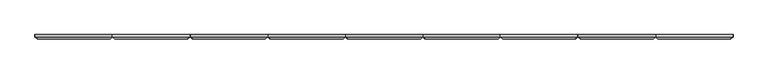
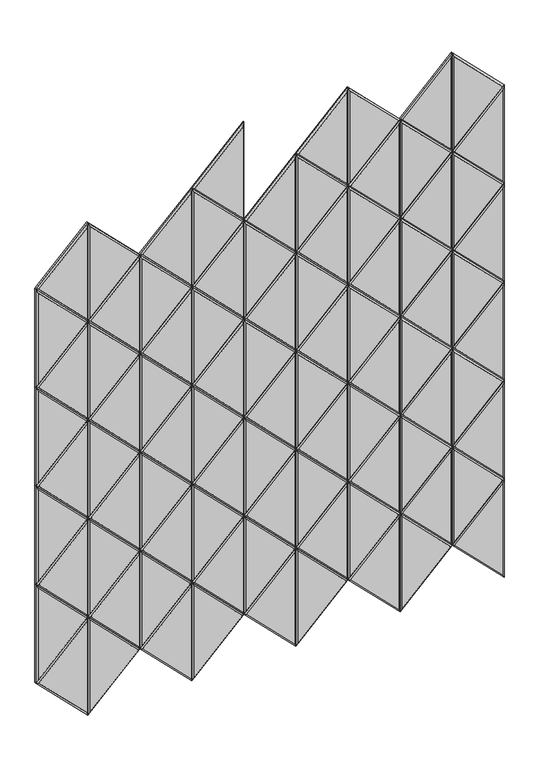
"""IFC4 building model written with IfcOpenShell, lengths in millimetres: proxy geometry, Wall_Akebia 6.3dm."""

from ifc_helpers import new_model, si_unit, origin, place, context, project, spatial, faceted_brep, source, transform, mapped, element, save


def generic_models_03445e5c(model_context):
    return source(origin(), model_context, "Body", "Brep", [
        faceted_brep([(8450.2881508, 12.0, 267.5677739), (8661.3241696, 12.0, 478.6037927), (8661.3241696, 12.0, 56.531755), (8450.2881508, 6.0, 267.5677739), (8661.3241696, 6.0, 478.6037927), (8661.3241696, 6.0, 56.531755), (8655.3241696, 0.0, 71.0170364), (8655.3241696, 0.0, 464.1185113), (8458.7734321, 0.0, 267.5677739)], [[[0, 1, 2]], [[3, 4, 1, 0]], [[4, 5, 2, 1]], [[5, 3, 0, 2]], [[6, 7, 8]], [[3, 8, 7, 4]], [[4, 7, 6, 5]], [[5, 6, 8, 3]]]),
        faceted_brep([(8028.2161131, 12.0, 267.5677739), (8239.2521319, 12.0, 478.6037927), (8239.2521319, 12.0, 56.531755), (8028.2161131, 6.0, 267.5677739), (8239.2521319, 6.0, 478.6037927), (8239.2521319, 6.0, 56.531755), (8233.2521319, 0.0, 71.0170364), (8233.2521319, 0.0, 464.1185113), (8036.7013944, 0.0, 267.5677739)], [[[0, 1, 2]], [[3, 4, 1, 0]], [[4, 5, 2, 1]], [[5, 3, 0, 2]], [[6, 7, 8]], [[3, 8, 7, 4]], [[4, 7, 6, 5]], [[5, 6, 8, 3]]]),
        faceted_brep([(8450.2881508, 12.0, 267.5677739), (8239.2521319, 12.0, 56.531755), (8239.2521319, 12.0, 478.6037927), (8450.2881508, 6.0, 267.5677739), (8239.2521319, 6.0, 478.6037927), (8239.2521319, 6.0, 56.531755), (8245.2521319, 0.0, 71.0170364), (8441.8028694, 0.0, 267.5677739), (8245.2521319, 0.0, 464.1185113)], [[[0, 1, 2]], [[3, 0, 2, 4]], [[4, 2, 1, 5]], [[5, 1, 0, 3]], [[6, 7, 8]], [[3, 4, 8, 7]], [[4, 5, 6, 8]], [[5, 3, 7, 6]]]),
        faceted_brep([(7606.1440754, 12.0, 267.5677739), (7817.1800942, 12.0, 478.6037927), (7817.1800942, 12.0, 56.531755), (7606.1440754, 6.0, 267.5677739), (7817.1800942, 6.0, 478.6037927), (7817.1800942, 6.0, 56.531755), (7811.1800942, 0.0, 71.0170364), (7811.1800942, 0.0, 464.1185113), (7614.6293568, 0.0, 267.5677739)], [[[0, 1, 2]], [[3, 4, 1, 0]], [[4, 5, 2, 1]], [[5, 3, 0, 2]], [[6, 7, 8]], [[3, 8, 7, 4]], [[4, 7, 6, 5]], [[5, 6, 8, 3]]]),
        faceted_brep([(8028.2161131, 12.0, 267.5677739), (7817.1800942, 12.0, 56.531755), (7817.1800942, 12.0, 478.6037927), (8028.2161131, 6.0, 267.5677739), (7817.1800942, 6.0, 478.6037927), (7817.1800942, 6.0, 56.531755), (7823.1800942, 0.0, 71.0170364), (8019.7308317, 0.0, 267.5677739), (7823.1800942, 0.0, 464.1185113)], [[[0, 1, 2]], [[3, 0, 2, 4]], [[4, 2, 1, 5]], [[5, 1, 0, 3]], [[6, 7, 8]], [[3, 4, 8, 7]], [[4, 5, 6, 8]], [[5, 3, 7, 6]]]),
        faceted_brep([(7184.0720377, 12.0, 267.5677739), (7395.1080565, 12.0, 478.6037927), (7395.1080565, 12.0, 56.531755), (7184.0720377, 6.0, 267.5677739), (7395.1080565, 6.0, 478.6037927), (7395.1080565, 6.0, 56.531755), (7389.1080565, 0.0, 71.0170364), (7389.1080565, 0.0, 464.1185113), (7192.5573191, 0.0, 267.5677739)], [[[0, 1, 2]], [[3, 4, 1, 0]], [[4, 5, 2, 1]], [[5, 3, 0, 2]], [[6, 7, 8]], [[3, 8, 7, 4]], [[4, 7, 6, 5]], [[5, 6, 8, 3]]]),
        faceted_brep([(7606.1440754, 12.0, 267.5677739), (7395.1080565, 12.0, 56.531755), (7395.1080565, 12.0, 478.6037927), (7606.1440754, 6.0, 267.5677739), (7395.1080565, 6.0, 478.6037927), (7395.1080565, 6.0, 56.531755), (7401.1080565, 0.0, 71.0170364), (7597.658794, 0.0, 267.5677739), (7401.1080565, 0.0, 464.1185113)], [[[0, 1, 2]], [[3, 0, 2, 4]], [[4, 2, 1, 5]], [[5, 1, 0, 3]], [[6, 7, 8]], [[3, 4, 8, 7]], [[4, 5, 6, 8]], [[5, 3, 7, 6]]]),
        faceted_brep([(6762.0, 12.0, 267.5677739), (6973.0360188, 12.0, 478.6037927), (6973.0360188, 12.0, 56.531755), (6762.0, 6.0, 267.5677739), (6973.0360188, 6.0, 478.6037927), (6973.0360188, 6.0, 56.531755), (6967.0360188, 0.0, 71.0170364), (6967.0360188, 0.0, 464.1185113), (6770.4852814, 0.0, 267.5677739)], [[[0, 1, 2]], [[3, 4, 1, 0]], [[4, 5, 2, 1]], [[5, 3, 0, 2]], [[6, 7, 8]], [[3, 8, 7, 4]], [[4, 7, 6, 5]], [[5, 6, 8, 3]]]),
        faceted_brep([(7184.0720377, 12.0, 267.5677739), (6973.0360188, 12.0, 56.531755), (6973.0360188, 12.0, 478.6037927), (7184.0720377, 6.0, 267.5677739), (6973.0360188, 6.0, 478.6037927), (6973.0360188, 6.0, 56.531755), (6979.0360188, 0.0, 71.0170364), (7175.5867563, 0.0, 267.5677739), (6979.0360188, 0.0, 464.1185113)], [[[0, 1, 2]], [[3, 0, 2, 4]], [[4, 2, 1, 5]], [[5, 1, 0, 3]], [[6, 7, 8]], [[3, 4, 8, 7]], [[4, 5, 6, 8]], [[5, 3, 7, 6]]]),
        faceted_brep([(8239.2521319, 12.0, 478.6037927), (8450.2881508, 12.0, 689.6398115), (8450.2881508, 12.0, 267.5677739), (8239.2521319, 6.0, 478.6037927), (8450.2881508, 6.0, 689.6398115), (8450.2881508, 6.0, 267.5677739), (8444.2881508, 0.0, 282.0530552), (8444.2881508, 0.0, 675.1545302), (8247.7374133, 0.0, 478.6037927)], [[[0, 1, 2]], [[3, 4, 1, 0]], [[4, 5, 2, 1]], [[5, 3, 0, 2]], [[6, 7, 8]], [[3, 8, 7, 4]], [[4, 7, 6, 5]], [[5, 6, 8, 3]]]),
        faceted_brep([(8661.3241696, 12.0, 478.6037927), (8450.2881508, 12.0, 267.5677739), (8450.2881508, 12.0, 689.6398115), (8661.3241696, 6.0, 478.6037927), (8450.2881508, 6.0, 689.6398115), (8450.2881508, 6.0, 267.5677739), (8456.2881508, 0.0, 282.0530552), (8652.8388882, 0.0, 478.6037927), (8456.2881508, 0.0, 675.1545302)], [[[0, 1, 2]], [[3, 0, 2, 4]], [[4, 2, 1, 5]], [[5, 1, 0, 3]], [[6, 7, 8]], [[3, 4, 8, 7]], [[4, 5, 6, 8]], [[5, 3, 7, 6]]]),
        faceted_brep([(7817.1800942, 12.0, 478.6037927), (8028.2161131, 12.0, 689.6398115), (8028.2161131, 12.0, 267.5677739), (7817.1800942, 6.0, 478.6037927), (8028.2161131, 6.0, 689.6398115), (8028.2161131, 6.0, 267.5677739), (8022.2161131, 0.0, 282.0530552), (8022.2161131, 0.0, 675.1545302), (7825.6653756, 0.0, 478.6037927)], [[[0, 1, 2]], [[3, 4, 1, 0]], [[4, 5, 2, 1]], [[5, 3, 0, 2]], [[6, 7, 8]], [[3, 8, 7, 4]], [[4, 7, 6, 5]], [[5, 6, 8, 3]]]),
        faceted_brep([(8239.2521319, 12.0, 478.6037927), (8028.2161131, 12.0, 267.5677739), (8028.2161131, 12.0, 689.6398115), (8239.2521319, 6.0, 478.6037927), (8028.2161131, 6.0, 689.6398115), (8028.2161131, 6.0, 267.5677739), (8034.2161131, 0.0, 282.0530552), (8230.7668505, 0.0, 478.6037927), (8034.2161131, 0.0, 675.1545302)], [[[0, 1, 2]], [[3, 0, 2, 4]], [[4, 2, 1, 5]], [[5, 1, 0, 3]], [[6, 7, 8]], [[3, 4, 8, 7]], [[4, 5, 6, 8]], [[5, 3, 7, 6]]]),
        faceted_brep([(7395.1080565, 12.0, 478.6037927), (7606.1440754, 12.0, 689.6398115), (7606.1440754, 12.0, 267.5677739), (7395.1080565, 6.0, 478.6037927), (7606.1440754, 6.0, 689.6398115), (7606.1440754, 6.0, 267.5677739), (7600.1440754, 0.0, 282.0530552), (7600.1440754, 0.0, 675.1545302), (7403.5933379, 0.0, 478.6037927)], [[[0, 1, 2]], [[3, 4, 1, 0]], [[4, 5, 2, 1]], [[5, 3, 0, 2]], [[6, 7, 8]], [[3, 8, 7, 4]], [[4, 7, 6, 5]], [[5, 6, 8, 3]]]),
        faceted_brep([(7817.1800942, 12.0, 478.6037927), (7606.1440754, 12.0, 267.5677739), (7606.1440754, 12.0, 689.6398115), (7817.1800942, 6.0, 478.6037927), (7606.1440754, 6.0, 689.6398115), (7606.1440754, 6.0, 267.5677739), (7612.1440754, 0.0, 282.0530552), (7808.6948129, 0.0, 478.6037927), (7612.1440754, 0.0, 675.1545302)], [[[0, 1, 2]], [[3, 0, 2, 4]], [[4, 2, 1, 5]], [[5, 1, 0, 3]], [[6, 7, 8]], [[3, 4, 8, 7]], [[4, 5, 6, 8]], [[5, 3, 7, 6]]]),
        faceted_brep([(6973.0360188, 12.0, 478.6037927), (7184.0720377, 12.0, 689.6398115), (7184.0720377, 12.0, 267.5677739), (6973.0360188, 6.0, 478.6037927), (7184.0720377, 6.0, 689.6398115), (7184.0720377, 6.0, 267.5677739), (7178.0720377, 0.0, 282.0530552), (7178.0720377, 0.0, 675.1545302), (6981.5213002, 0.0, 478.6037927)], [[[0, 1, 2]], [[3, 4, 1, 0]], [[4, 5, 2, 1]], [[5, 3, 0, 2]], [[6, 7, 8]], [[3, 8, 7, 4]], [[4, 7, 6, 5]], [[5, 6, 8, 3]]]),
        faceted_brep([(7395.1080565, 12.0, 478.6037927), (7184.0720377, 12.0, 267.5677739), (7184.0720377, 12.0, 689.6398115), (7395.1080565, 6.0, 478.6037927), (7184.0720377, 6.0, 689.6398115), (7184.0720377, 6.0, 267.5677739), (7190.0720377, 0.0, 282.0530552), (7386.6227752, 0.0, 478.6037927), (7190.0720377, 0.0, 675.1545302)], [[[0, 1, 2]], [[3, 0, 2, 4]], [[4, 2, 1, 5]], [[5, 1, 0, 3]], [[6, 7, 8]], [[3, 4, 8, 7]], [[4, 5, 6, 8]], [[5, 3, 7, 6]]]),
        faceted_brep([(6973.0360188, 12.0, 478.6037927), (6762.0, 12.0, 267.5677739), (6762.0, 12.0, 689.6398115), (6973.0360188, 6.0, 478.6037927), (6762.0, 6.0, 689.6398115), (6762.0, 6.0, 267.5677739), (6768.0, 0.0, 282.0530552), (6964.5507375, 0.0, 478.6037927), (6768.0, 0.0, 675.1545302)], [[[0, 1, 2]], [[3, 0, 2, 4]], [[4, 2, 1, 5]], [[5, 1, 0, 3]], [[6, 7, 8]], [[3, 4, 8, 7]], [[4, 5, 6, 8]], [[5, 3, 7, 6]]]),
        faceted_brep([(8450.2881508, 12.0, 689.6398115), (8661.3241696, 12.0, 900.6758304), (8661.3241696, 12.0, 478.6037927), (8450.2881508, 6.0, 689.6398115), (8661.3241696, 6.0, 900.6758304), (8661.3241696, 6.0, 478.6037927), (8655.3241696, 0.0, 493.0890741), (8655.3241696, 0.0, 886.190549), (8458.7734321, 0.0, 689.6398115)], [[[0, 1, 2]], [[3, 4, 1, 0]], [[4, 5, 2, 1]], [[5, 3, 0, 2]], [[6, 7, 8]], [[3, 8, 7, 4]], [[4, 7, 6, 5]], [[5, 6, 8, 3]]]),
        faceted_brep([(8028.2161131, 12.0, 689.6398115), (8239.2521319, 12.0, 900.6758304), (8239.2521319, 12.0, 478.6037927), (8028.2161131, 6.0, 689.6398115), (8239.2521319, 6.0, 900.6758304), (8239.2521319, 6.0, 478.6037927), (8233.2521319, 0.0, 493.0890741), (8233.2521319, 0.0, 886.190549), (8036.7013944, 0.0, 689.6398115)], [[[0, 1, 2]], [[3, 4, 1, 0]], [[4, 5, 2, 1]], [[5, 3, 0, 2]], [[6, 7, 8]], [[3, 8, 7, 4]], [[4, 7, 6, 5]], [[5, 6, 8, 3]]]),
        faceted_brep([(8450.2881508, 12.0, 689.6398115), (8239.2521319, 12.0, 478.6037927), (8239.2521319, 12.0, 900.6758304), (8450.2881508, 6.0, 689.6398115), (8239.2521319, 6.0, 900.6758304), (8239.2521319, 6.0, 478.6037927), (8245.2521319, 0.0, 493.0890741), (8441.8028694, 0.0, 689.6398115), (8245.2521319, 0.0, 886.190549)], [[[0, 1, 2]], [[3, 0, 2, 4]], [[4, 2, 1, 5]], [[5, 1, 0, 3]], [[6, 7, 8]], [[3, 4, 8, 7]], [[4, 5, 6, 8]], [[5, 3, 7, 6]]]),
        faceted_brep([(7606.1440754, 12.0, 689.6398115), (7817.1800942, 12.0, 900.6758304), (7817.1800942, 12.0, 478.6037927), (7606.1440754, 6.0, 689.6398115), (7817.1800942, 6.0, 900.6758304), (7817.1800942, 6.0, 478.6037927), (7811.1800942, 0.0, 493.0890741), (7811.1800942, 0.0, 886.190549), (7614.6293568, 0.0, 689.6398115)], [[[0, 1, 2]], [[3, 4, 1, 0]], [[4, 5, 2, 1]], [[5, 3, 0, 2]], [[6, 7, 8]], [[3, 8, 7, 4]], [[4, 7, 6, 5]], [[5, 6, 8, 3]]]),
        faceted_brep([(8028.2161131, 12.0, 689.6398115), (7817.1800942, 12.0, 478.6037927), (7817.1800942, 12.0, 900.6758304), (8028.2161131, 6.0, 689.6398115), (7817.1800942, 6.0, 900.6758304), (7817.1800942, 6.0, 478.6037927), (7823.1800942, 0.0, 493.0890741), (8019.7308317, 0.0, 689.6398115), (7823.1800942, 0.0, 886.190549)], [[[0, 1, 2]], [[3, 0, 2, 4]], [[4, 2, 1, 5]], [[5, 1, 0, 3]], [[6, 7, 8]], [[3, 4, 8, 7]], [[4, 5, 6, 8]], [[5, 3, 7, 6]]]),
        faceted_brep([(7184.0720377, 12.0, 689.6398115), (7395.1080565, 12.0, 900.6758304), (7395.1080565, 12.0, 478.6037927), (7184.0720377, 6.0, 689.6398115), (7395.1080565, 6.0, 900.6758304), (7395.1080565, 6.0, 478.6037927), (7389.1080565, 0.0, 493.0890741), (7389.1080565, 0.0, 886.190549), (7192.5573191, 0.0, 689.6398115)], [[[0, 1, 2]], [[3, 4, 1, 0]], [[4, 5, 2, 1]], [[5, 3, 0, 2]], [[6, 7, 8]], [[3, 8, 7, 4]], [[4, 7, 6, 5]], [[5, 6, 8, 3]]]),
        faceted_brep([(7606.1440754, 12.0, 689.6398115), (7395.1080565, 12.0, 478.6037927), (7395.1080565, 12.0, 900.6758304), (7606.1440754, 6.0, 689.6398115), (7395.1080565, 6.0, 900.6758304), (7395.1080565, 6.0, 478.6037927), (7401.1080565, 0.0, 493.0890741), (7597.658794, 0.0, 689.6398115), (7401.1080565, 0.0, 886.190549)], [[[0, 1, 2]], [[3, 0, 2, 4]], [[4, 2, 1, 5]], [[5, 1, 0, 3]], [[6, 7, 8]], [[3, 4, 8, 7]], [[4, 5, 6, 8]], [[5, 3, 7, 6]]]),
        faceted_brep([(6762.0, 12.0, 689.6398115), (6973.0360188, 12.0, 900.6758304), (6973.0360188, 12.0, 478.6037927), (6762.0, 6.0, 689.6398115), (6973.0360188, 6.0, 900.6758304), (6973.0360188, 6.0, 478.6037927), (6967.0360188, 0.0, 493.0890741), (6967.0360188, 0.0, 886.190549), (6770.4852814, 0.0, 689.6398115)], [[[0, 1, 2]], [[3, 4, 1, 0]], [[4, 5, 2, 1]], [[5, 3, 0, 2]], [[6, 7, 8]], [[3, 8, 7, 4]], [[4, 7, 6, 5]], [[5, 6, 8, 3]]]),
        faceted_brep([(7184.0720377, 12.0, 689.6398115), (6973.0360188, 12.0, 478.6037927), (6973.0360188, 12.0, 900.6758304), (7184.0720377, 6.0, 689.6398115), (6973.0360188, 6.0, 900.6758304), (6973.0360188, 6.0, 478.6037927), (6979.0360188, 0.0, 493.0890741), (7175.5867563, 0.0, 689.6398115), (6979.0360188, 0.0, 886.190549)], [[[0, 1, 2]], [[3, 0, 2, 4]], [[4, 2, 1, 5]], [[5, 1, 0, 3]], [[6, 7, 8]], [[3, 4, 8, 7]], [[4, 5, 6, 8]], [[5, 3, 7, 6]]]),
        faceted_brep([(8239.2521319, 12.0, 900.6758304), (8450.2881508, 12.0, 1111.7118492), (8450.2881508, 12.0, 689.6398115), (8239.2521319, 6.0, 900.6758304), (8450.2881508, 6.0, 1111.7118492), (8450.2881508, 6.0, 689.6398115), (8444.2881508, 0.0, 704.1250929), (8444.2881508, 0.0, 1097.2265679), (8247.7374133, 0.0, 900.6758304)], [[[0, 1, 2]], [[3, 4, 1, 0]], [[4, 5, 2, 1]], [[5, 3, 0, 2]], [[6, 7, 8]], [[3, 8, 7, 4]], [[4, 7, 6, 5]], [[5, 6, 8, 3]]]),
        faceted_brep([(8661.3241696, 12.0, 900.6758304), (8450.2881508, 12.0, 689.6398115), (8450.2881508, 12.0, 1111.7118492), (8661.3241696, 6.0, 900.6758304), (8450.2881508, 6.0, 1111.7118492), (8450.2881508, 6.0, 689.6398115), (8456.2881508, 0.0, 704.1250929), (8652.8388882, 0.0, 900.6758304), (8456.2881508, 0.0, 1097.2265679)], [[[0, 1, 2]], [[3, 0, 2, 4]], [[4, 2, 1, 5]], [[5, 1, 0, 3]], [[6, 7, 8]], [[3, 4, 8, 7]], [[4, 5, 6, 8]], [[5, 3, 7, 6]]]),
        faceted_brep([(7817.1800942, 12.0, 900.6758304), (8028.2161131, 12.0, 1111.7118492), (8028.2161131, 12.0, 689.6398115), (7817.1800942, 6.0, 900.6758304), (8028.2161131, 6.0, 1111.7118492), (8028.2161131, 6.0, 689.6398115), (8022.2161131, 0.0, 704.1250929), (8022.2161131, 0.0, 1097.2265679), (7825.6653756, 0.0, 900.6758304)], [[[0, 1, 2]], [[3, 4, 1, 0]], [[4, 5, 2, 1]], [[5, 3, 0, 2]], [[6, 7, 8]], [[3, 8, 7, 4]], [[4, 7, 6, 5]], [[5, 6, 8, 3]]]),
        faceted_brep([(8239.2521319, 12.0, 900.6758304), (8028.2161131, 12.0, 689.6398115), (8028.2161131, 12.0, 1111.7118492), (8239.2521319, 6.0, 900.6758304), (8028.2161131, 6.0, 1111.7118492), (8028.2161131, 6.0, 689.6398115), (8034.2161131, 0.0, 704.1250929), (8230.7668505, 0.0, 900.6758304), (8034.2161131, 0.0, 1097.2265679)], [[[0, 1, 2]], [[3, 0, 2, 4]], [[4, 2, 1, 5]], [[5, 1, 0, 3]], [[6, 7, 8]], [[3, 4, 8, 7]], [[4, 5, 6, 8]], [[5, 3, 7, 6]]]),
        faceted_brep([(7395.1080565, 12.0, 900.6758304), (7606.1440754, 12.0, 1111.7118492), (7606.1440754, 12.0, 689.6398115), (7395.1080565, 6.0, 900.6758304), (7606.1440754, 6.0, 1111.7118492), (7606.1440754, 6.0, 689.6398115), (7600.1440754, 0.0, 704.1250929), (7600.1440754, 0.0, 1097.2265679), (7403.5933379, 0.0, 900.6758304)], [[[0, 1, 2]], [[3, 4, 1, 0]], [[4, 5, 2, 1]], [[5, 3, 0, 2]], [[6, 7, 8]], [[3, 8, 7, 4]], [[4, 7, 6, 5]], [[5, 6, 8, 3]]]),
        faceted_brep([(7817.1800942, 12.0, 900.6758304), (7606.1440754, 12.0, 689.6398115), (7606.1440754, 12.0, 1111.7118492), (7817.1800942, 6.0, 900.6758304), (7606.1440754, 6.0, 1111.7118492), (7606.1440754, 6.0, 689.6398115), (7612.1440754, 0.0, 704.1250929), (7808.6948129, 0.0, 900.6758304), (7612.1440754, 0.0, 1097.2265679)], [[[0, 1, 2]], [[3, 0, 2, 4]], [[4, 2, 1, 5]], [[5, 1, 0, 3]], [[6, 7, 8]], [[3, 4, 8, 7]], [[4, 5, 6, 8]], [[5, 3, 7, 6]]]),
        faceted_brep([(6973.0360188, 12.0, 900.6758304), (7184.0720377, 12.0, 1111.7118492), (7184.0720377, 12.0, 689.6398115), (6973.0360188, 6.0, 900.6758304), (7184.0720377, 6.0, 1111.7118492), (7184.0720377, 6.0, 689.6398115), (7178.0720377, 0.0, 704.1250929), (7178.0720377, 0.0, 1097.2265679), (6981.5213002, 0.0, 900.6758304)], [[[0, 1, 2]], [[3, 4, 1, 0]], [[4, 5, 2, 1]], [[5, 3, 0, 2]], [[6, 7, 8]], [[3, 8, 7, 4]], [[4, 7, 6, 5]], [[5, 6, 8, 3]]]),
        faceted_brep([(7395.1080565, 12.0, 900.6758304), (7184.0720377, 12.0, 689.6398115), (7184.0720377, 12.0, 1111.7118492), (7395.1080565, 6.0, 900.6758304), (7184.0720377, 6.0, 1111.7118492), (7184.0720377, 6.0, 689.6398115), (7190.0720377, 0.0, 704.1250929), (7386.6227752, 0.0, 900.6758304), (7190.0720377, 0.0, 1097.2265679)], [[[0, 1, 2]], [[3, 0, 2, 4]], [[4, 2, 1, 5]], [[5, 1, 0, 3]], [[6, 7, 8]], [[3, 4, 8, 7]], [[4, 5, 6, 8]], [[5, 3, 7, 6]]]),
        faceted_brep([(6973.0360188, 12.0, 900.6758304), (6762.0, 12.0, 689.6398115), (6762.0, 12.0, 1111.7118492), (6973.0360188, 6.0, 900.6758304), (6762.0, 6.0, 1111.7118492), (6762.0, 6.0, 689.6398115), (6768.0, 0.0, 704.1250929), (6964.5507375, 0.0, 900.6758304), (6768.0, 0.0, 1097.2265679)], [[[0, 1, 2]], [[3, 0, 2, 4]], [[4, 2, 1, 5]], [[5, 1, 0, 3]], [[6, 7, 8]], [[3, 4, 8, 7]], [[4, 5, 6, 8]], [[5, 3, 7, 6]]]),
        faceted_brep([(8450.2881508, 12.0, 1111.7118492), (8661.3241696, 12.0, 1322.7478681), (8661.3241696, 12.0, 900.6758304), (8450.2881508, 6.0, 1111.7118492), (8661.3241696, 6.0, 1322.7478681), (8661.3241696, 6.0, 900.6758304), (8655.3241696, 0.0, 915.1611118), (8655.3241696, 0.0, 1308.2625867), (8458.7734321, 0.0, 1111.7118492)], [[[0, 1, 2]], [[3, 4, 1, 0]], [[4, 5, 2, 1]], [[5, 3, 0, 2]], [[6, 7, 8]], [[3, 8, 7, 4]], [[4, 7, 6, 5]], [[5, 6, 8, 3]]]),
        faceted_brep([(8028.2161131, 12.0, 1111.7118492), (8239.2521319, 12.0, 1322.7478681), (8239.2521319, 12.0, 900.6758304), (8028.2161131, 6.0, 1111.7118492), (8239.2521319, 6.0, 1322.7478681), (8239.2521319, 6.0, 900.6758304), (8233.2521319, 0.0, 915.1611118), (8233.2521319, 0.0, 1308.2625867), (8036.7013944, 0.0, 1111.7118492)], [[[0, 1, 2]], [[3, 4, 1, 0]], [[4, 5, 2, 1]], [[5, 3, 0, 2]], [[6, 7, 8]], [[3, 8, 7, 4]], [[4, 7, 6, 5]], [[5, 6, 8, 3]]]),
        faceted_brep([(8450.2881508, 12.0, 1111.7118492), (8239.2521319, 12.0, 900.6758304), (8239.2521319, 12.0, 1322.7478681), (8450.2881508, 6.0, 1111.7118492), (8239.2521319, 6.0, 1322.7478681), (8239.2521319, 6.0, 900.6758304), (8245.2521319, 0.0, 915.1611118), (8441.8028694, 0.0, 1111.7118492), (8245.2521319, 0.0, 1308.2625867)], [[[0, 1, 2]], [[3, 0, 2, 4]], [[4, 2, 1, 5]], [[5, 1, 0, 3]], [[6, 7, 8]], [[3, 4, 8, 7]], [[4, 5, 6, 8]], [[5, 3, 7, 6]]]),
        faceted_brep([(7606.1440754, 12.0, 1111.7118492), (7817.1800942, 12.0, 1322.7478681), (7817.1800942, 12.0, 900.6758304), (7606.1440754, 6.0, 1111.7118492), (7817.1800942, 6.0, 1322.7478681), (7817.1800942, 6.0, 900.6758304), (7811.1800942, 0.0, 915.1611118), (7811.1800942, 0.0, 1308.2625867), (7614.6293568, 0.0, 1111.7118492)], [[[0, 1, 2]], [[3, 4, 1, 0]], [[4, 5, 2, 1]], [[5, 3, 0, 2]], [[6, 7, 8]], [[3, 8, 7, 4]], [[4, 7, 6, 5]], [[5, 6, 8, 3]]]),
        faceted_brep([(8028.2161131, 12.0, 1111.7118492), (7817.1800942, 12.0, 900.6758304), (7817.1800942, 12.0, 1322.7478681), (8028.2161131, 6.0, 1111.7118492), (7817.1800942, 6.0, 1322.7478681), (7817.1800942, 6.0, 900.6758304), (7823.1800942, 0.0, 915.1611118), (8019.7308317, 0.0, 1111.7118492), (7823.1800942, 0.0, 1308.2625867)], [[[0, 1, 2]], [[3, 0, 2, 4]], [[4, 2, 1, 5]], [[5, 1, 0, 3]], [[6, 7, 8]], [[3, 4, 8, 7]], [[4, 5, 6, 8]], [[5, 3, 7, 6]]]),
        faceted_brep([(7184.0720377, 12.0, 1111.7118492), (7395.1080565, 12.0, 1322.7478681), (7395.1080565, 12.0, 900.6758304), (7184.0720377, 6.0, 1111.7118492), (7395.1080565, 6.0, 1322.7478681), (7395.1080565, 6.0, 900.6758304), (7389.1080565, 0.0, 915.1611118), (7389.1080565, 0.0, 1308.2625867), (7192.5573191, 0.0, 1111.7118492)], [[[0, 1, 2]], [[3, 4, 1, 0]], [[4, 5, 2, 1]], [[5, 3, 0, 2]], [[6, 7, 8]], [[3, 8, 7, 4]], [[4, 7, 6, 5]], [[5, 6, 8, 3]]]),
        faceted_brep([(7606.1440754, 12.0, 1111.7118492), (7395.1080565, 12.0, 900.6758304), (7395.1080565, 12.0, 1322.7478681), (7606.1440754, 6.0, 1111.7118492), (7395.1080565, 6.0, 1322.7478681), (7395.1080565, 6.0, 900.6758304), (7401.1080565, 0.0, 915.1611118), (7597.658794, 0.0, 1111.7118492), (7401.1080565, 0.0, 1308.2625867)], [[[0, 1, 2]], [[3, 0, 2, 4]], [[4, 2, 1, 5]], [[5, 1, 0, 3]], [[6, 7, 8]], [[3, 4, 8, 7]], [[4, 5, 6, 8]], [[5, 3, 7, 6]]]),
        faceted_brep([(6762.0, 12.0, 1111.7118492), (6973.0360188, 12.0, 1322.7478681), (6973.0360188, 12.0, 900.6758304), (6762.0, 6.0, 1111.7118492), (6973.0360188, 6.0, 1322.7478681), (6973.0360188, 6.0, 900.6758304), (6967.0360188, 0.0, 915.1611118), (6967.0360188, 0.0, 1308.2625867), (6770.4852814, 0.0, 1111.7118492)], [[[0, 1, 2]], [[3, 4, 1, 0]], [[4, 5, 2, 1]], [[5, 3, 0, 2]], [[6, 7, 8]], [[3, 8, 7, 4]], [[4, 7, 6, 5]], [[5, 6, 8, 3]]]),
        faceted_brep([(7184.0720377, 12.0, 1111.7118492), (6973.0360188, 12.0, 900.6758304), (6973.0360188, 12.0, 1322.7478681), (7184.0720377, 6.0, 1111.7118492), (6973.0360188, 6.0, 1322.7478681), (6973.0360188, 6.0, 900.6758304), (6979.0360188, 0.0, 915.1611118), (7175.5867563, 0.0, 1111.7118492), (6979.0360188, 0.0, 1308.2625867)], [[[0, 1, 2]], [[3, 0, 2, 4]], [[4, 2, 1, 5]], [[5, 1, 0, 3]], [[6, 7, 8]], [[3, 4, 8, 7]], [[4, 5, 6, 8]], [[5, 3, 7, 6]]]),
        faceted_brep([(8239.2521319, 12.0, 1322.7478681), (8450.2881508, 12.0, 1533.7838869), (8450.2881508, 12.0, 1111.7118492), (8239.2521319, 6.0, 1322.7478681), (8450.2881508, 6.0, 1533.7838869), (8450.2881508, 6.0, 1111.7118492), (8444.2881508, 0.0, 1126.1971306), (8444.2881508, 0.0, 1519.2986056), (8247.7374133, 0.0, 1322.7478681)], [[[0, 1, 2]], [[3, 4, 1, 0]], [[4, 5, 2, 1]], [[5, 3, 0, 2]], [[6, 7, 8]], [[3, 8, 7, 4]], [[4, 7, 6, 5]], [[5, 6, 8, 3]]]),
        faceted_brep([(8661.3241696, 12.0, 1322.7478681), (8450.2881508, 12.0, 1111.7118492), (8450.2881508, 12.0, 1533.7838869), (8661.3241696, 6.0, 1322.7478681), (8450.2881508, 6.0, 1533.7838869), (8450.2881508, 6.0, 1111.7118492), (8456.2881508, 0.0, 1126.1971306), (8652.8388882, 0.0, 1322.7478681), (8456.2881508, 0.0, 1519.2986056)], [[[0, 1, 2]], [[3, 0, 2, 4]], [[4, 2, 1, 5]], [[5, 1, 0, 3]], [[6, 7, 8]], [[3, 4, 8, 7]], [[4, 5, 6, 8]], [[5, 3, 7, 6]]]),
        faceted_brep([(7817.1800942, 12.0, 1322.7478681), (8028.2161131, 12.0, 1533.7838869), (8028.2161131, 12.0, 1111.7118492), (7817.1800942, 6.0, 1322.7478681), (8028.2161131, 6.0, 1533.7838869), (8028.2161131, 6.0, 1111.7118492), (8022.2161131, 0.0, 1126.1971306), (8022.2161131, 0.0, 1519.2986056), (7825.6653756, 0.0, 1322.7478681)], [[[0, 1, 2]], [[3, 4, 1, 0]], [[4, 5, 2, 1]], [[5, 3, 0, 2]], [[6, 7, 8]], [[3, 8, 7, 4]], [[4, 7, 6, 5]], [[5, 6, 8, 3]]]),
        faceted_brep([(8239.2521319, 12.0, 1322.7478681), (8028.2161131, 12.0, 1111.7118492), (8028.2161131, 12.0, 1533.7838869), (8239.2521319, 6.0, 1322.7478681), (8028.2161131, 6.0, 1533.7838869), (8028.2161131, 6.0, 1111.7118492), (8034.2161131, 0.0, 1126.1971306), (8230.7668505, 0.0, 1322.7478681), (8034.2161131, 0.0, 1519.2986056)], [[[0, 1, 2]], [[3, 0, 2, 4]], [[4, 2, 1, 5]], [[5, 1, 0, 3]], [[6, 7, 8]], [[3, 4, 8, 7]], [[4, 5, 6, 8]], [[5, 3, 7, 6]]]),
        faceted_brep([(7395.1080565, 12.0, 1322.7478681), (7606.1440754, 12.0, 1533.7838869), (7606.1440754, 12.0, 1111.7118492), (7395.1080565, 6.0, 1322.7478681), (7606.1440754, 6.0, 1533.7838869), (7606.1440754, 6.0, 1111.7118492), (7600.1440754, 0.0, 1126.1971306), (7600.1440754, 0.0, 1519.2986056), (7403.5933379, 0.0, 1322.7478681)], [[[0, 1, 2]], [[3, 4, 1, 0]], [[4, 5, 2, 1]], [[5, 3, 0, 2]], [[6, 7, 8]], [[3, 8, 7, 4]], [[4, 7, 6, 5]], [[5, 6, 8, 3]]]),
        faceted_brep([(7817.1800942, 12.0, 1322.7478681), (7606.1440754, 12.0, 1111.7118492), (7606.1440754, 12.0, 1533.7838869), (7817.1800942, 6.0, 1322.7478681), (7606.1440754, 6.0, 1533.7838869), (7606.1440754, 6.0, 1111.7118492), (7612.1440754, 0.0, 1126.1971306), (7808.6948129, 0.0, 1322.7478681), (7612.1440754, 0.0, 1519.2986056)], [[[0, 1, 2]], [[3, 0, 2, 4]], [[4, 2, 1, 5]], [[5, 1, 0, 3]], [[6, 7, 8]], [[3, 4, 8, 7]], [[4, 5, 6, 8]], [[5, 3, 7, 6]]]),
        faceted_brep([(6973.0360188, 12.0, 1322.7478681), (7184.0720377, 12.0, 1533.7838869), (7184.0720377, 12.0, 1111.7118492), (6973.0360188, 6.0, 1322.7478681), (7184.0720377, 6.0, 1533.7838869), (7184.0720377, 6.0, 1111.7118492), (7178.0720377, 0.0, 1126.1971306), (7178.0720377, 0.0, 1519.2986056), (6981.5213002, 0.0, 1322.7478681)], [[[0, 1, 2]], [[3, 4, 1, 0]], [[4, 5, 2, 1]], [[5, 3, 0, 2]], [[6, 7, 8]], [[3, 8, 7, 4]], [[4, 7, 6, 5]], [[5, 6, 8, 3]]]),
        faceted_brep([(7395.1080565, 12.0, 1322.7478681), (7184.0720377, 12.0, 1111.7118492), (7184.0720377, 12.0, 1533.7838869), (7395.1080565, 6.0, 1322.7478681), (7184.0720377, 6.0, 1533.7838869), (7184.0720377, 6.0, 1111.7118492), (7190.0720377, 0.0, 1126.1971306), (7386.6227752, 0.0, 1322.7478681), (7190.0720377, 0.0, 1519.2986056)], [[[0, 1, 2]], [[3, 0, 2, 4]], [[4, 2, 1, 5]], [[5, 1, 0, 3]], [[6, 7, 8]], [[3, 4, 8, 7]], [[4, 5, 6, 8]], [[5, 3, 7, 6]]]),
        faceted_brep([(6973.0360188, 12.0, 1322.7478681), (6762.0, 12.0, 1111.7118492), (6762.0, 12.0, 1533.7838869), (6973.0360188, 6.0, 1322.7478681), (6762.0, 6.0, 1533.7838869), (6762.0, 6.0, 1111.7118492), (6768.0, 0.0, 1126.1971306), (6964.5507375, 0.0, 1322.7478681), (6768.0, 0.0, 1519.2986056)], [[[0, 1, 2]], [[3, 0, 2, 4]], [[4, 2, 1, 5]], [[5, 1, 0, 3]], [[6, 7, 8]], [[3, 4, 8, 7]], [[4, 5, 6, 8]], [[5, 3, 7, 6]]]),
        faceted_brep([(8450.2881508, 12.0, 1533.7838869), (8661.3241696, 12.0, 1744.8199058), (8661.3241696, 12.0, 1322.7478681), (8450.2881508, 6.0, 1533.7838869), (8661.3241696, 6.0, 1744.8199058), (8661.3241696, 6.0, 1322.7478681), (8655.3241696, 0.0, 1337.2331495), (8655.3241696, 0.0, 1730.3346244), (8458.7734321, 0.0, 1533.7838869)], [[[0, 1, 2]], [[3, 4, 1, 0]], [[4, 5, 2, 1]], [[5, 3, 0, 2]], [[6, 7, 8]], [[3, 8, 7, 4]], [[4, 7, 6, 5]], [[5, 6, 8, 3]]]),
        faceted_brep([(8028.2161131, 12.0, 1533.7838869), (8239.2521319, 12.0, 1744.8199058), (8239.2521319, 12.0, 1322.7478681), (8028.2161131, 6.0, 1533.7838869), (8239.2521319, 6.0, 1744.8199058), (8239.2521319, 6.0, 1322.7478681), (8233.2521319, 0.0, 1337.2331495), (8233.2521319, 0.0, 1730.3346244), (8036.7013944, 0.0, 1533.7838869)], [[[0, 1, 2]], [[3, 4, 1, 0]], [[4, 5, 2, 1]], [[5, 3, 0, 2]], [[6, 7, 8]], [[3, 8, 7, 4]], [[4, 7, 6, 5]], [[5, 6, 8, 3]]]),
        faceted_brep([(8450.2881508, 12.0, 1533.7838869), (8239.2521319, 12.0, 1322.7478681), (8239.2521319, 12.0, 1744.8199058), (8450.2881508, 6.0, 1533.7838869), (8239.2521319, 6.0, 1744.8199058), (8239.2521319, 6.0, 1322.7478681), (8245.2521319, 0.0, 1337.2331495), (8441.8028694, 0.0, 1533.7838869), (8245.2521319, 0.0, 1730.3346244)], [[[0, 1, 2]], [[3, 0, 2, 4]], [[4, 2, 1, 5]], [[5, 1, 0, 3]], [[6, 7, 8]], [[3, 4, 8, 7]], [[4, 5, 6, 8]], [[5, 3, 7, 6]]]),
        faceted_brep([(7606.1440754, 12.0, 1533.7838869), (7817.1800942, 12.0, 1744.8199058), (7817.1800942, 12.0, 1322.7478681), (7606.1440754, 6.0, 1533.7838869), (7817.1800942, 6.0, 1744.8199058), (7817.1800942, 6.0, 1322.7478681), (7811.1800942, 0.0, 1337.2331495), (7811.1800942, 0.0, 1730.3346244), (7614.6293568, 0.0, 1533.7838869)], [[[0, 1, 2]], [[3, 4, 1, 0]], [[4, 5, 2, 1]], [[5, 3, 0, 2]], [[6, 7, 8]], [[3, 8, 7, 4]], [[4, 7, 6, 5]], [[5, 6, 8, 3]]]),
        faceted_brep([(8028.2161131, 12.0, 1533.7838869), (7817.1800942, 12.0, 1322.7478681), (7817.1800942, 12.0, 1744.8199058), (8028.2161131, 6.0, 1533.7838869), (7817.1800942, 6.0, 1744.8199058), (7817.1800942, 6.0, 1322.7478681), (7823.1800942, 0.0, 1337.2331495), (8019.7308317, 0.0, 1533.7838869), (7823.1800942, 0.0, 1730.3346244)], [[[0, 1, 2]], [[3, 0, 2, 4]], [[4, 2, 1, 5]], [[5, 1, 0, 3]], [[6, 7, 8]], [[3, 4, 8, 7]], [[4, 5, 6, 8]], [[5, 3, 7, 6]]]),
        faceted_brep([(7184.0720377, 12.0, 1533.7838869), (7395.1080565, 12.0, 1744.8199058), (7395.1080565, 12.0, 1322.7478681), (7184.0720377, 6.0, 1533.7838869), (7395.1080565, 6.0, 1744.8199058), (7395.1080565, 6.0, 1322.7478681), (7389.1080565, 0.0, 1337.2331495), (7389.1080565, 0.0, 1730.3346244), (7192.5573191, 0.0, 1533.7838869)], [[[0, 1, 2]], [[3, 4, 1, 0]], [[4, 5, 2, 1]], [[5, 3, 0, 2]], [[6, 7, 8]], [[3, 8, 7, 4]], [[4, 7, 6, 5]], [[5, 6, 8, 3]]]),
        faceted_brep([(7606.1440754, 12.0, 1533.7838869), (7395.1080565, 12.0, 1322.7478681), (7395.1080565, 12.0, 1744.8199058), (7606.1440754, 6.0, 1533.7838869), (7395.1080565, 6.0, 1744.8199058), (7395.1080565, 6.0, 1322.7478681), (7401.1080565, 0.0, 1337.2331495), (7597.658794, 0.0, 1533.7838869), (7401.1080565, 0.0, 1730.3346244)], [[[0, 1, 2]], [[3, 0, 2, 4]], [[4, 2, 1, 5]], [[5, 1, 0, 3]], [[6, 7, 8]], [[3, 4, 8, 7]], [[4, 5, 6, 8]], [[5, 3, 7, 6]]]),
        faceted_brep([(6762.0, 12.0, 1533.7838869), (6973.0360188, 12.0, 1744.8199058), (6973.0360188, 12.0, 1322.7478681), (6762.0, 6.0, 1533.7838869), (6973.0360188, 6.0, 1744.8199058), (6973.0360188, 6.0, 1322.7478681), (6967.0360188, 0.0, 1337.2331495), (6967.0360188, 0.0, 1730.3346244), (6770.4852814, 0.0, 1533.7838869)], [[[0, 1, 2]], [[3, 4, 1, 0]], [[4, 5, 2, 1]], [[5, 3, 0, 2]], [[6, 7, 8]], [[3, 8, 7, 4]], [[4, 7, 6, 5]], [[5, 6, 8, 3]]]),
        faceted_brep([(7184.0720377, 12.0, 1533.7838869), (6973.0360188, 12.0, 1322.7478681), (6973.0360188, 12.0, 1744.8199058), (7184.0720377, 6.0, 1533.7838869), (6973.0360188, 6.0, 1744.8199058), (6973.0360188, 6.0, 1322.7478681), (6979.0360188, 0.0, 1337.2331495), (7175.5867563, 0.0, 1533.7838869), (6979.0360188, 0.0, 1730.3346244)], [[[0, 1, 2]], [[3, 0, 2, 4]], [[4, 2, 1, 5]], [[5, 1, 0, 3]], [[6, 7, 8]], [[3, 4, 8, 7]], [[4, 5, 6, 8]], [[5, 3, 7, 6]]]),
        faceted_brep([(8239.2521319, 12.0, 1744.8199058), (8450.2881508, 12.0, 1955.8559246), (8450.2881508, 12.0, 1533.7838869), (8239.2521319, 6.0, 1744.8199058), (8450.2881508, 6.0, 1955.8559246), (8450.2881508, 6.0, 1533.7838869), (8444.2881508, 0.0, 1548.2691683), (8444.2881508, 0.0, 1941.3706432), (8247.7374133, 0.0, 1744.8199058)], [[[0, 1, 2]], [[3, 4, 1, 0]], [[4, 5, 2, 1]], [[5, 3, 0, 2]], [[6, 7, 8]], [[3, 8, 7, 4]], [[4, 7, 6, 5]], [[5, 6, 8, 3]]]),
        faceted_brep([(8661.3241696, 12.0, 1744.8199058), (8450.2881508, 12.0, 1533.7838869), (8450.2881508, 12.0, 1955.8559246), (8661.3241696, 6.0, 1744.8199058), (8450.2881508, 6.0, 1955.8559246), (8450.2881508, 6.0, 1533.7838869), (8456.2881508, 0.0, 1548.2691683), (8652.8388882, 0.0, 1744.8199058), (8456.2881508, 0.0, 1941.3706432)], [[[0, 1, 2]], [[3, 0, 2, 4]], [[4, 2, 1, 5]], [[5, 1, 0, 3]], [[6, 7, 8]], [[3, 4, 8, 7]], [[4, 5, 6, 8]], [[5, 3, 7, 6]]]),
        faceted_brep([(7817.1800942, 12.0, 1744.8199058), (8028.2161131, 12.0, 1955.8559246), (8028.2161131, 12.0, 1533.7838869), (7817.1800942, 6.0, 1744.8199058), (8028.2161131, 6.0, 1955.8559246), (8028.2161131, 6.0, 1533.7838869), (8022.2161131, 0.0, 1548.2691683), (8022.2161131, 0.0, 1941.3706432), (7825.6653756, 0.0, 1744.8199058)], [[[0, 1, 2]], [[3, 4, 1, 0]], [[4, 5, 2, 1]], [[5, 3, 0, 2]], [[6, 7, 8]], [[3, 8, 7, 4]], [[4, 7, 6, 5]], [[5, 6, 8, 3]]]),
        faceted_brep([(8239.2521319, 12.0, 1744.8199058), (8028.2161131, 12.0, 1533.7838869), (8028.2161131, 12.0, 1955.8559246), (8239.2521319, 6.0, 1744.8199058), (8028.2161131, 6.0, 1955.8559246), (8028.2161131, 6.0, 1533.7838869), (8034.2161131, 0.0, 1548.2691683), (8230.7668505, 0.0, 1744.8199058), (8034.2161131, 0.0, 1941.3706432)], [[[0, 1, 2]], [[3, 0, 2, 4]], [[4, 2, 1, 5]], [[5, 1, 0, 3]], [[6, 7, 8]], [[3, 4, 8, 7]], [[4, 5, 6, 8]], [[5, 3, 7, 6]]]),
        faceted_brep([(7395.1080565, 12.0, 1744.8199058), (7606.1440754, 12.0, 1955.8559246), (7606.1440754, 12.0, 1533.7838869), (7395.1080565, 6.0, 1744.8199058), (7606.1440754, 6.0, 1955.8559246), (7606.1440754, 6.0, 1533.7838869), (7600.1440754, 0.0, 1548.2691683), (7600.1440754, 0.0, 1941.3706432), (7403.5933379, 0.0, 1744.8199058)], [[[0, 1, 2]], [[3, 4, 1, 0]], [[4, 5, 2, 1]], [[5, 3, 0, 2]], [[6, 7, 8]], [[3, 8, 7, 4]], [[4, 7, 6, 5]], [[5, 6, 8, 3]]]),
        faceted_brep([(7817.1800942, 12.0, 1744.8199058), (7606.1440754, 12.0, 1533.7838869), (7606.1440754, 12.0, 1955.8559246), (7817.1800942, 6.0, 1744.8199058), (7606.1440754, 6.0, 1955.8559246), (7606.1440754, 6.0, 1533.7838869), (7612.1440754, 0.0, 1548.2691683), (7808.6948129, 0.0, 1744.8199058), (7612.1440754, 0.0, 1941.3706432)], [[[0, 1, 2]], [[3, 0, 2, 4]], [[4, 2, 1, 5]], [[5, 1, 0, 3]], [[6, 7, 8]], [[3, 4, 8, 7]], [[4, 5, 6, 8]], [[5, 3, 7, 6]]]),
        faceted_brep([(6973.0360188, 12.0, 1744.8199058), (7184.0720377, 12.0, 1955.8559246), (7184.0720377, 12.0, 1533.7838869), (6973.0360188, 6.0, 1744.8199058), (7184.0720377, 6.0, 1955.8559246), (7184.0720377, 6.0, 1533.7838869), (7178.0720377, 0.0, 1548.2691683), (7178.0720377, 0.0, 1941.3706432), (6981.5213002, 0.0, 1744.8199058)], [[[0, 1, 2]], [[3, 4, 1, 0]], [[4, 5, 2, 1]], [[5, 3, 0, 2]], [[6, 7, 8]], [[3, 8, 7, 4]], [[4, 7, 6, 5]], [[5, 6, 8, 3]]]),
        faceted_brep([(7395.1080565, 12.0, 1744.8199058), (7184.0720377, 12.0, 1533.7838869), (7184.0720377, 12.0, 1955.8559246), (7395.1080565, 6.0, 1744.8199058), (7184.0720377, 6.0, 1955.8559246), (7184.0720377, 6.0, 1533.7838869), (7190.0720377, 0.0, 1548.2691683), (7386.6227752, 0.0, 1744.8199058), (7190.0720377, 0.0, 1941.3706432)], [[[0, 1, 2]], [[3, 0, 2, 4]], [[4, 2, 1, 5]], [[5, 1, 0, 3]], [[6, 7, 8]], [[3, 4, 8, 7]], [[4, 5, 6, 8]], [[5, 3, 7, 6]]]),
        faceted_brep([(6973.0360188, 12.0, 1744.8199058), (6762.0, 12.0, 1533.7838869), (6762.0, 12.0, 1955.8559246), (6973.0360188, 6.0, 1744.8199058), (6762.0, 6.0, 1955.8559246), (6762.0, 6.0, 1533.7838869), (6768.0, 0.0, 1548.2691683), (6964.5507375, 0.0, 1744.8199058), (6768.0, 0.0, 1941.3706432)], [[[0, 1, 2]], [[3, 0, 2, 4]], [[4, 2, 1, 5]], [[5, 1, 0, 3]], [[6, 7, 8]], [[3, 4, 8, 7]], [[4, 5, 6, 8]], [[5, 3, 7, 6]]]),
        faceted_brep([(8450.2881508, 12.0, 1955.8559246), (8661.3241696, 12.0, 2166.8919435), (8661.3241696, 12.0, 1744.8199058), (8450.2881508, 6.0, 1955.8559246), (8661.3241696, 6.0, 2166.8919435), (8661.3241696, 6.0, 1744.8199058), (8655.3241696, 0.0, 1759.3051871), (8655.3241696, 0.0, 2152.4066621), (8458.7734321, 0.0, 1955.8559246)], [[[0, 1, 2]], [[3, 4, 1, 0]], [[4, 5, 2, 1]], [[5, 3, 0, 2]], [[6, 7, 8]], [[3, 8, 7, 4]], [[4, 7, 6, 5]], [[5, 6, 8, 3]]]),
        faceted_brep([(8028.2161131, 12.0, 1955.8559246), (8239.2521319, 12.0, 2166.8919435), (8239.2521319, 12.0, 1744.8199058), (8028.2161131, 6.0, 1955.8559246), (8239.2521319, 6.0, 2166.8919435), (8239.2521319, 6.0, 1744.8199058), (8233.2521319, 0.0, 1759.3051871), (8233.2521319, 0.0, 2152.4066621), (8036.7013944, 0.0, 1955.8559246)], [[[0, 1, 2]], [[3, 4, 1, 0]], [[4, 5, 2, 1]], [[5, 3, 0, 2]], [[6, 7, 8]], [[3, 8, 7, 4]], [[4, 7, 6, 5]], [[5, 6, 8, 3]]]),
        faceted_brep([(8450.2881508, 12.0, 1955.8559246), (8239.2521319, 12.0, 1744.8199058), (8239.2521319, 12.0, 2166.8919435), (8450.2881508, 6.0, 1955.8559246), (8239.2521319, 6.0, 2166.8919435), (8239.2521319, 6.0, 1744.8199058), (8245.2521319, 0.0, 1759.3051871), (8441.8028694, 0.0, 1955.8559246), (8245.2521319, 0.0, 2152.4066621)], [[[0, 1, 2]], [[3, 0, 2, 4]], [[4, 2, 1, 5]], [[5, 1, 0, 3]], [[6, 7, 8]], [[3, 4, 8, 7]], [[4, 5, 6, 8]], [[5, 3, 7, 6]]]),
        faceted_brep([(7606.1440754, 12.0, 1955.8559246), (7817.1800942, 12.0, 2166.8919435), (7817.1800942, 12.0, 1744.8199058), (7606.1440754, 6.0, 1955.8559246), (7817.1800942, 6.0, 2166.8919435), (7817.1800942, 6.0, 1744.8199058), (7811.1800942, 0.0, 1759.3051871), (7811.1800942, 0.0, 2152.4066621), (7614.6293568, 0.0, 1955.8559246)], [[[0, 1, 2]], [[3, 4, 1, 0]], [[4, 5, 2, 1]], [[5, 3, 0, 2]], [[6, 7, 8]], [[3, 8, 7, 4]], [[4, 7, 6, 5]], [[5, 6, 8, 3]]]),
        faceted_brep([(8028.2161131, 12.0, 1955.8559246), (7817.1800942, 12.0, 1744.8199058), (7817.1800942, 12.0, 2166.8919435), (8028.2161131, 6.0, 1955.8559246), (7817.1800942, 6.0, 2166.8919435), (7817.1800942, 6.0, 1744.8199058), (7823.1800942, 0.0, 1759.3051871), (8019.7308317, 0.0, 1955.8559246), (7823.1800942, 0.0, 2152.4066621)], [[[0, 1, 2]], [[3, 0, 2, 4]], [[4, 2, 1, 5]], [[5, 1, 0, 3]], [[6, 7, 8]], [[3, 4, 8, 7]], [[4, 5, 6, 8]], [[5, 3, 7, 6]]]),
        faceted_brep([(7184.0720377, 12.0, 1955.8559246), (7395.1080565, 12.0, 2166.8919435), (7395.1080565, 12.0, 1744.8199058), (7184.0720377, 6.0, 1955.8559246), (7395.1080565, 6.0, 2166.8919435), (7395.1080565, 6.0, 1744.8199058), (7389.1080565, 0.0, 1759.3051871), (7389.1080565, 0.0, 2152.4066621), (7192.5573191, 0.0, 1955.8559246)], [[[0, 1, 2]], [[3, 4, 1, 0]], [[4, 5, 2, 1]], [[5, 3, 0, 2]], [[6, 7, 8]], [[3, 8, 7, 4]], [[4, 7, 6, 5]], [[5, 6, 8, 3]]]),
        faceted_brep([(7606.1440754, 12.0, 1955.8559246), (7395.1080565, 12.0, 1744.8199058), (7395.1080565, 12.0, 2166.8919435), (7606.1440754, 6.0, 1955.8559246), (7395.1080565, 6.0, 2166.8919435), (7395.1080565, 6.0, 1744.8199058), (7401.1080565, 0.0, 1759.3051871), (7597.658794, 0.0, 1955.8559246), (7401.1080565, 0.0, 2152.4066621)], [[[0, 1, 2]], [[3, 0, 2, 4]], [[4, 2, 1, 5]], [[5, 1, 0, 3]], [[6, 7, 8]], [[3, 4, 8, 7]], [[4, 5, 6, 8]], [[5, 3, 7, 6]]]),
        faceted_brep([(6762.0, 12.0, 1955.8559246), (6973.0360188, 12.0, 2166.8919435), (6973.0360188, 12.0, 1744.8199058), (6762.0, 6.0, 1955.8559246), (6973.0360188, 6.0, 2166.8919435), (6973.0360188, 6.0, 1744.8199058), (6967.0360188, 0.0, 1759.3051871), (6967.0360188, 0.0, 2152.4066621), (6770.4852814, 0.0, 1955.8559246)], [[[0, 1, 2]], [[3, 4, 1, 0]], [[4, 5, 2, 1]], [[5, 3, 0, 2]], [[6, 7, 8]], [[3, 8, 7, 4]], [[4, 7, 6, 5]], [[5, 6, 8, 3]]]),
        faceted_brep([(7184.0720377, 12.0, 1955.8559246), (6973.0360188, 12.0, 1744.8199058), (6973.0360188, 12.0, 2166.8919435), (7184.0720377, 6.0, 1955.8559246), (6973.0360188, 6.0, 2166.8919435), (6973.0360188, 6.0, 1744.8199058), (6979.0360188, 0.0, 1759.3051871), (7175.5867563, 0.0, 1955.8559246), (6979.0360188, 0.0, 2152.4066621)], [[[0, 1, 2]], [[3, 0, 2, 4]], [[4, 2, 1, 5]], [[5, 1, 0, 3]], [[6, 7, 8]], [[3, 4, 8, 7]], [[4, 5, 6, 8]], [[5, 3, 7, 6]]]),
        faceted_brep([(8239.2521319, 12.0, 2166.8919435), (8450.2881508, 12.0, 2377.9279623), (8450.2881508, 12.0, 1955.8559246), (8239.2521319, 6.0, 2166.8919435), (8450.2881508, 6.0, 2377.9279623), (8450.2881508, 6.0, 1955.8559246), (8444.2881508, 0.0, 1970.341206), (8444.2881508, 0.0, 2363.4426809), (8247.7374133, 0.0, 2166.8919435)], [[[0, 1, 2]], [[3, 4, 1, 0]], [[4, 5, 2, 1]], [[5, 3, 0, 2]], [[6, 7, 8]], [[3, 8, 7, 4]], [[4, 7, 6, 5]], [[5, 6, 8, 3]]]),
        faceted_brep([(8661.3241696, 12.0, 2166.8919435), (8450.2881508, 12.0, 1955.8559246), (8450.2881508, 12.0, 2377.9279623), (8661.3241696, 6.0, 2166.8919435), (8450.2881508, 6.0, 2377.9279623), (8450.2881508, 6.0, 1955.8559246), (8456.2881508, 0.0, 1970.341206), (8652.8388882, 0.0, 2166.8919435), (8456.2881508, 0.0, 2363.4426809)], [[[0, 1, 2]], [[3, 0, 2, 4]], [[4, 2, 1, 5]], [[5, 1, 0, 3]], [[6, 7, 8]], [[3, 4, 8, 7]], [[4, 5, 6, 8]], [[5, 3, 7, 6]]]),
        faceted_brep([(7817.1800942, 12.0, 2166.8919435), (8028.2161131, 12.0, 2377.9279623), (8028.2161131, 12.0, 1955.8559246), (7817.1800942, 6.0, 2166.8919435), (8028.2161131, 6.0, 2377.9279623), (8028.2161131, 6.0, 1955.8559246), (8022.2161131, 0.0, 1970.341206), (8022.2161131, 0.0, 2363.4426809), (7825.6653756, 0.0, 2166.8919435)], [[[0, 1, 2]], [[3, 4, 1, 0]], [[4, 5, 2, 1]], [[5, 3, 0, 2]], [[6, 7, 8]], [[3, 8, 7, 4]], [[4, 7, 6, 5]], [[5, 6, 8, 3]]]),
        faceted_brep([(8239.2521319, 12.0, 2166.8919435), (8028.2161131, 12.0, 1955.8559246), (8028.2161131, 12.0, 2377.9279623), (8239.2521319, 6.0, 2166.8919435), (8028.2161131, 6.0, 2377.9279623), (8028.2161131, 6.0, 1955.8559246), (8034.2161131, 0.0, 1970.341206), (8230.7668505, 0.0, 2166.8919435), (8034.2161131, 0.0, 2363.4426809)], [[[0, 1, 2]], [[3, 0, 2, 4]], [[4, 2, 1, 5]], [[5, 1, 0, 3]], [[6, 7, 8]], [[3, 4, 8, 7]], [[4, 5, 6, 8]], [[5, 3, 7, 6]]]),
        faceted_brep([(7395.1080565, 12.0, 2166.8919435), (7606.1440754, 12.0, 2377.9279623), (7606.1440754, 12.0, 1955.8559246), (7395.1080565, 6.0, 2166.8919435), (7606.1440754, 6.0, 2377.9279623), (7606.1440754, 6.0, 1955.8559246), (7600.1440754, 0.0, 1970.341206), (7600.1440754, 0.0, 2363.4426809), (7403.5933379, 0.0, 2166.8919435)], [[[0, 1, 2]], [[3, 4, 1, 0]], [[4, 5, 2, 1]], [[5, 3, 0, 2]], [[6, 7, 8]], [[3, 8, 7, 4]], [[4, 7, 6, 5]], [[5, 6, 8, 3]]]),
    ])


if __name__ == "__main__":
    model = new_model("IFC4")
    model_context = context("Model", 3, world=origin())
    ifc_project = project(units=[si_unit("LENGTHUNIT", "METRE", prefix="MILLI")], contexts=[model_context])
    site = spatial("IfcSite", under=ifc_project)
    building = spatial("IfcBuilding", under=site)
    placement = place(None, origin())
    generic_models_shape = generic_models_03445e5c(model_context)
    element("IfcBuildingElementProxy", 1, Name="Wall_Akebia 6.3dm", ObjectType="Wall_Akebia 6.3dm", at=placement, inside=building, context=model_context, shape_type="MappedRepresentation", body=[
        mapped(generic_models_shape, transform((0.0, 0.0, 0.0), x_axis=(1.0, 0.0, 0.0), y_axis=(0.0, 1.0, 0.0), z_axis=(0.0, 0.0, 1.0))),
    ])
    save(model, "model.ifc")
